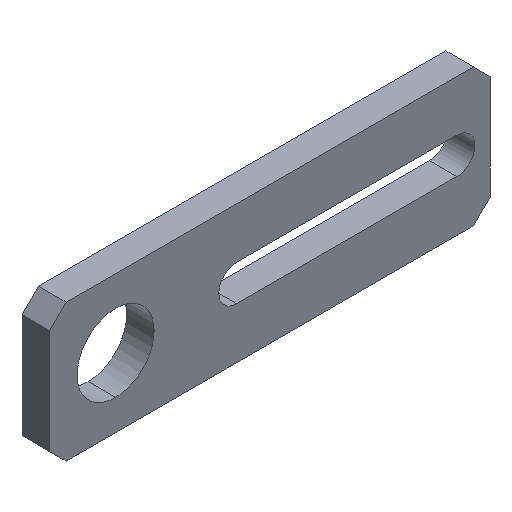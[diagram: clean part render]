
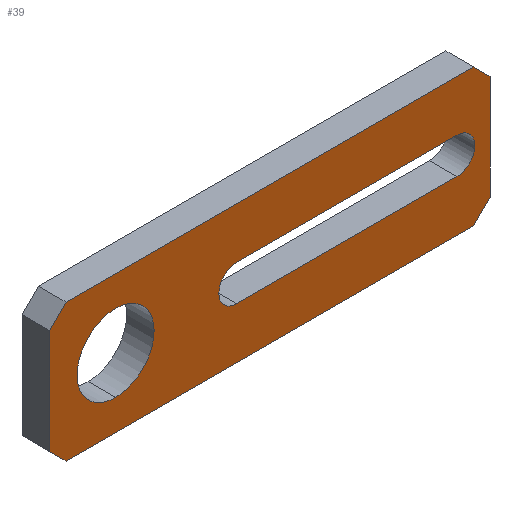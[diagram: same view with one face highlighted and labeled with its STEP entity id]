
A CAD part, isometric view. The second image highlights one B-rep face of the part: STEP entity #39.
In plain terms, the highlighted planar face has unit normal (0, -1, 0).
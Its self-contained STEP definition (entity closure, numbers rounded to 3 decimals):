
#1 = ORIENTED_EDGE ( 'NONE', *, *, #303, .F. ) ;
#2 = CARTESIAN_POINT ( 'NONE',  ( 34., 0., 0. ) ) ;
#14 = CIRCLE ( 'NONE', #131, 3.25 ) ;
#16 = LINE ( 'NONE', #541, #24 ) ;
#21 = VECTOR ( 'NONE', #399, 1000. ) ;
#24 = VECTOR ( 'NONE', #544, 1000. ) ;
#39 = ADVANCED_FACE ( 'NONE', ( #374, #302, #105 ), #494, .F. ) ;
#40 = CARTESIAN_POINT ( 'NONE',  ( 40., 0., 0. ) ) ;
#41 = LINE ( 'NONE', #113, #66 ) ;
#45 = LINE ( 'NONE', #542, #263 ) ;
#46 = DIRECTION ( 'NONE',  ( 0., 0., -1. ) ) ;
#50 = CIRCLE ( 'NONE', #88, 3.25 ) ;
#53 = CARTESIAN_POINT ( 'NONE',  ( 34., 0., -3.25 ) ) ;
#66 = VECTOR ( 'NONE', #119, 1000. ) ;
#70 = DIRECTION ( 'NONE',  ( 0., 0., 1. ) ) ;
#77 = CARTESIAN_POINT ( 'NONE',  ( 40., 0., 9.5 ) ) ;
#81 = VECTOR ( 'NONE', #244, 1000. ) ;
#82 = DIRECTION ( 'NONE',  ( 0., -1., 0. ) ) ;
#84 = CIRCLE ( 'NONE', #121, 7. ) ;
#88 = AXIS2_PLACEMENT_3D ( 'NONE', #266, #414, #70 ) ;
#91 = VERTEX_POINT ( 'NONE', #429 ) ;
#94 = ORIENTED_EDGE ( 'NONE', *, *, #317, .F. ) ;
#102 = ORIENTED_EDGE ( 'NONE', *, *, #174, .F. ) ;
#105 = FACE_OUTER_BOUND ( 'NONE', #135, .T. ) ;
#113 = CARTESIAN_POINT ( 'NONE',  ( 0., 0., -3.25 ) ) ;
#119 = DIRECTION ( 'NONE',  ( 1., 0., 0. ) ) ;
#121 = AXIS2_PLACEMENT_3D ( 'NONE', #482, #82, #485 ) ;
#123 = DIRECTION ( 'NONE',  ( 0., 0., 1. ) ) ;
#130 = ORIENTED_EDGE ( 'NONE', *, *, #537, .F. ) ;
#131 = AXIS2_PLACEMENT_3D ( 'NONE', #2, #512, #123 ) ;
#135 = EDGE_LOOP ( 'NONE', ( #255, #1, #351, #526, #452, #94, #332, #102 ) ) ;
#155 = LINE ( 'NONE', #248, #81 ) ;
#157 = CARTESIAN_POINT ( 'NONE',  ( -37., 0., 12.5 ) ) ;
#162 = EDGE_CURVE ( 'NONE', #510, #213, #425, .T. ) ;
#166 = EDGE_CURVE ( 'NONE', #213, #467, #412, .T. ) ;
#174 = EDGE_CURVE ( 'NONE', #180, #91, #281, .T. ) ;
#177 = LINE ( 'NONE', #157, #362 ) ;
#180 = VERTEX_POINT ( 'NONE', #358 ) ;
#184 = ORIENTED_EDGE ( 'NONE', *, *, #338, .F. ) ;
#185 = VECTOR ( 'NONE', #431, 1000. ) ;
#194 = LINE ( 'NONE', #463, #547 ) ;
#195 = CARTESIAN_POINT ( 'NONE',  ( -40., 0., 9.5 ) ) ;
#199 = AXIS2_PLACEMENT_3D ( 'NONE', #237, #273, #346 ) ;
#200 = ORIENTED_EDGE ( 'NONE', *, *, #280, .F. ) ;
#213 = VERTEX_POINT ( 'NONE', #315 ) ;
#223 = ORIENTED_EDGE ( 'NONE', *, *, #524, .F. ) ;
#231 = VECTOR ( 'NONE', #46, 1000. ) ;
#236 = EDGE_CURVE ( 'NONE', #91, #443, #155, .T. ) ;
#237 = CARTESIAN_POINT ( 'NONE',  ( -28., 0., 0. ) ) ;
#243 = AXIS2_PLACEMENT_3D ( 'NONE', #438, #324, #361 ) ;
#244 = DIRECTION ( 'NONE',  ( -0.707, 0., 0.707 ) ) ;
#245 = EDGE_LOOP ( 'NONE', ( #223, #184, #453, #437 ) ) ;
#248 = CARTESIAN_POINT ( 'NONE',  ( -40., 0., -9.5 ) ) ;
#251 = DIRECTION ( 'NONE',  ( -1., 0., 0. ) ) ;
#252 = CIRCLE ( 'NONE', #199, 7. ) ;
#255 = ORIENTED_EDGE ( 'NONE', *, *, #469, .F. ) ;
#263 = VECTOR ( 'NONE', #251, 1000. ) ;
#266 = CARTESIAN_POINT ( 'NONE',  ( -6., 0., 0. ) ) ;
#268 = VERTEX_POINT ( 'NONE', #328 ) ;
#269 = VERTEX_POINT ( 'NONE', #195 ) ;
#270 = DIRECTION ( 'NONE',  ( 0., 0., 1. ) ) ;
#271 = VERTEX_POINT ( 'NONE', #410 ) ;
#273 = DIRECTION ( 'NONE',  ( 0., -1., 0. ) ) ;
#279 = EDGE_CURVE ( 'NONE', #269, #510, #177, .T. ) ;
#280 = EDGE_CURVE ( 'NONE', #268, #397, #252, .T. ) ;
#281 = LINE ( 'NONE', #472, #185 ) ;
#291 = CARTESIAN_POINT ( 'NONE',  ( -40., 0., -9.5 ) ) ;
#298 = CARTESIAN_POINT ( 'NONE',  ( -37., 0., 12.5 ) ) ;
#301 = CARTESIAN_POINT ( 'NONE',  ( 34., 0., 3.25 ) ) ;
#302 = FACE_BOUND ( 'NONE', #373, .T. ) ;
#303 = EDGE_CURVE ( 'NONE', #467, #271, #545, .T. ) ;
#315 = CARTESIAN_POINT ( 'NONE',  ( 37., 0., 12.5 ) ) ;
#317 = EDGE_CURVE ( 'NONE', #443, #269, #194, .T. ) ;
#324 = DIRECTION ( 'NONE',  ( 0., 1., 0. ) ) ;
#328 = CARTESIAN_POINT ( 'NONE',  ( -28., 0., 7. ) ) ;
#332 = ORIENTED_EDGE ( 'NONE', *, *, #236, .F. ) ;
#338 = EDGE_CURVE ( 'NONE', #505, #519, #45, .T. ) ;
#346 = DIRECTION ( 'NONE',  ( 0., 0., 1. ) ) ;
#351 = ORIENTED_EDGE ( 'NONE', *, *, #166, .F. ) ;
#358 = CARTESIAN_POINT ( 'NONE',  ( 37., 0., -12.5 ) ) ;
#361 = DIRECTION ( 'NONE',  ( 0., 0., 1. ) ) ;
#362 = VECTOR ( 'NONE', #445, 1000. ) ;
#373 = EDGE_LOOP ( 'NONE', ( #200, #130 ) ) ;
#374 = FACE_BOUND ( 'NONE', #245, .T. ) ;
#386 = VERTEX_POINT ( 'NONE', #53 ) ;
#390 = DIRECTION ( 'NONE',  ( 1., 0., 0. ) ) ;
#397 = VERTEX_POINT ( 'NONE', #523 ) ;
#398 = CARTESIAN_POINT ( 'NONE',  ( 40., 0., 9.5 ) ) ;
#399 = DIRECTION ( 'NONE',  ( 0.707, 0., -0.707 ) ) ;
#405 = CARTESIAN_POINT ( 'NONE',  ( -6., 0., 3.25 ) ) ;
#410 = CARTESIAN_POINT ( 'NONE',  ( 40., 0., -9.5 ) ) ;
#412 = LINE ( 'NONE', #398, #21 ) ;
#414 = DIRECTION ( 'NONE',  ( 0., -1., 0. ) ) ;
#416 = VERTEX_POINT ( 'NONE', #426 ) ;
#425 = LINE ( 'NONE', #441, #458 ) ;
#426 = CARTESIAN_POINT ( 'NONE',  ( -6., 0., -3.25 ) ) ;
#429 = CARTESIAN_POINT ( 'NONE',  ( -37., 0., -12.5 ) ) ;
#431 = DIRECTION ( 'NONE',  ( -1., 0., 0. ) ) ;
#437 = ORIENTED_EDGE ( 'NONE', *, *, #514, .F. ) ;
#438 = CARTESIAN_POINT ( 'NONE',  ( -40., 0., -12.5 ) ) ;
#441 = CARTESIAN_POINT ( 'NONE',  ( 0., 0., 12.5 ) ) ;
#443 = VERTEX_POINT ( 'NONE', #291 ) ;
#445 = DIRECTION ( 'NONE',  ( 0.707, 0., 0.707 ) ) ;
#452 = ORIENTED_EDGE ( 'NONE', *, *, #279, .F. ) ;
#453 = ORIENTED_EDGE ( 'NONE', *, *, #464, .F. ) ;
#458 = VECTOR ( 'NONE', #390, 1000. ) ;
#463 = CARTESIAN_POINT ( 'NONE',  ( -40., 0., 0. ) ) ;
#464 = EDGE_CURVE ( 'NONE', #386, #505, #14, .T. ) ;
#467 = VERTEX_POINT ( 'NONE', #77 ) ;
#469 = EDGE_CURVE ( 'NONE', #271, #180, #16, .T. ) ;
#472 = CARTESIAN_POINT ( 'NONE',  ( 0., 0., -12.5 ) ) ;
#482 = CARTESIAN_POINT ( 'NONE',  ( -28., 0., 0. ) ) ;
#485 = DIRECTION ( 'NONE',  ( 0., 0., 1. ) ) ;
#494 = PLANE ( 'NONE',  #243 ) ;
#505 = VERTEX_POINT ( 'NONE', #301 ) ;
#510 = VERTEX_POINT ( 'NONE', #298 ) ;
#512 = DIRECTION ( 'NONE',  ( 0., -1., 0. ) ) ;
#514 = EDGE_CURVE ( 'NONE', #416, #386, #41, .T. ) ;
#519 = VERTEX_POINT ( 'NONE', #405 ) ;
#523 = CARTESIAN_POINT ( 'NONE',  ( -28., 0., -7. ) ) ;
#524 = EDGE_CURVE ( 'NONE', #519, #416, #50, .T. ) ;
#526 = ORIENTED_EDGE ( 'NONE', *, *, #162, .F. ) ;
#537 = EDGE_CURVE ( 'NONE', #397, #268, #84, .T. ) ;
#541 = CARTESIAN_POINT ( 'NONE',  ( 37., 0., -12.5 ) ) ;
#542 = CARTESIAN_POINT ( 'NONE',  ( 0., 0., 3.25 ) ) ;
#544 = DIRECTION ( 'NONE',  ( -0.707, 0., -0.707 ) ) ;
#545 = LINE ( 'NONE', #40, #231 ) ;
#547 = VECTOR ( 'NONE', #270, 1000. ) ;
